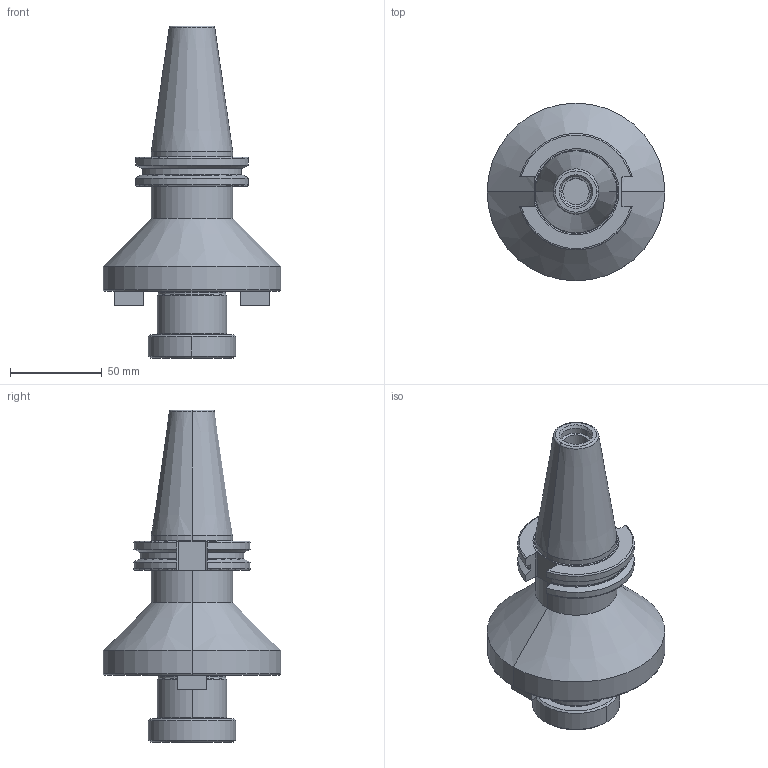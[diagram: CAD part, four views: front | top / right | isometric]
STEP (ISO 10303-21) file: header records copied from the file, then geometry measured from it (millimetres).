
FILE_DESCRIPTION (( 'STEP AP214' ), '1' );
FILE_NAME ('RC4SM1500300.STEP', '2019-02-08T19:03:58', ( '' ), ( '' ), 'SwSTEP 2.0', 'SolidWorks 2019', '' );
FILE_SCHEMA (( 'AUTOMOTIVE_DESIGN' ));
Length unit declared in the file: inch
Products named in the file (1): RC4SM1500300
Bounding box: 96.85 x 96.85 x 180.91 mm (x, y, z)
Volume: 370431.6 mm3; surface area: 55479.1 mm2
Topology: 1 solids, 4 shells, 247 faces, 634 edges, 384 vertices
Faces by surface type: plane 94, cone 73, cylinder 54, torus 26
Entity records: 9145 total; most frequent: CARTESIAN_POINT 2014, DIRECTION 1263, ORIENTED_EDGE 1244, EDGE_CURVE 622, AXIS2_PLACEMENT_3D 487, VERTEX_POINT 384, VECTOR 289, LINE 289
